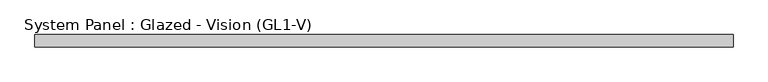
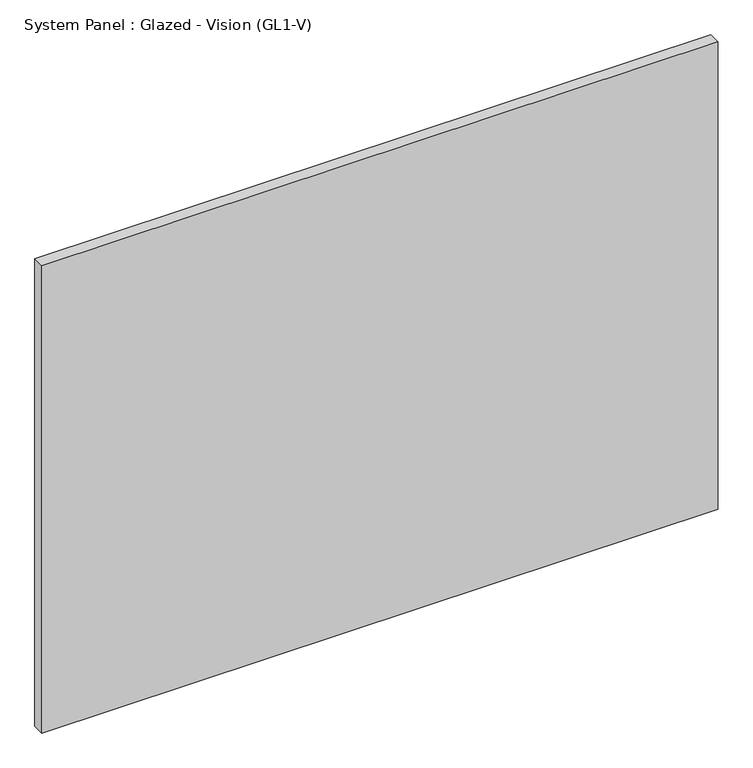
"""IFC4 building model written with IfcOpenShell, lengths in millimetres: plate geometry, System Panel : Glazed - Vision (GL1-V)."""

from ifc_helpers import new_model, si_unit, origin, origin_with_axes, place, context, project, spatial, polyline, outline, extrude, source, transform, mapped, element, save


def system_panel_glazed_vision_gl1_v_b3e39f65(model_context):
    return source(origin(), model_context, "Body", "SweptSolid", [
        extrude(outline(polyline([(730.25, -25.4), (-730.25, -25.4), (-730.25, 0.0), (730.25, 0.0), (730.25, -25.4)])), origin_with_axes(), (0.0, 0.0, 1.0), 1066.8000021),
    ])


if __name__ == "__main__":
    model = new_model("IFC4")
    model_context = context("Model", 3, world=origin())
    ifc_project = project(units=[si_unit("LENGTHUNIT", "METRE", prefix="MILLI")], contexts=[model_context])
    site = spatial("IfcSite", under=ifc_project)
    building = spatial("IfcBuilding", under=site)
    placement = place(None, origin())
    system_panel_glazed_vision_gl1_v_shape = system_panel_glazed_vision_gl1_v_b3e39f65(model_context)
    element("IfcPlate", 1, ObjectType="System Panel : Glazed - Vision (GL1-V)", at=placement, inside=building, context=model_context, shape_type="MappedRepresentation", body=[
        mapped(system_panel_glazed_vision_gl1_v_shape, transform((0.0, 0.0, 0.0), x_axis=(1.0, 0.0, 0.0), y_axis=(0.0, 1.0, 0.0), z_axis=(0.0, 0.0, 1.0))),
    ])
    save(model, "model.ifc")
